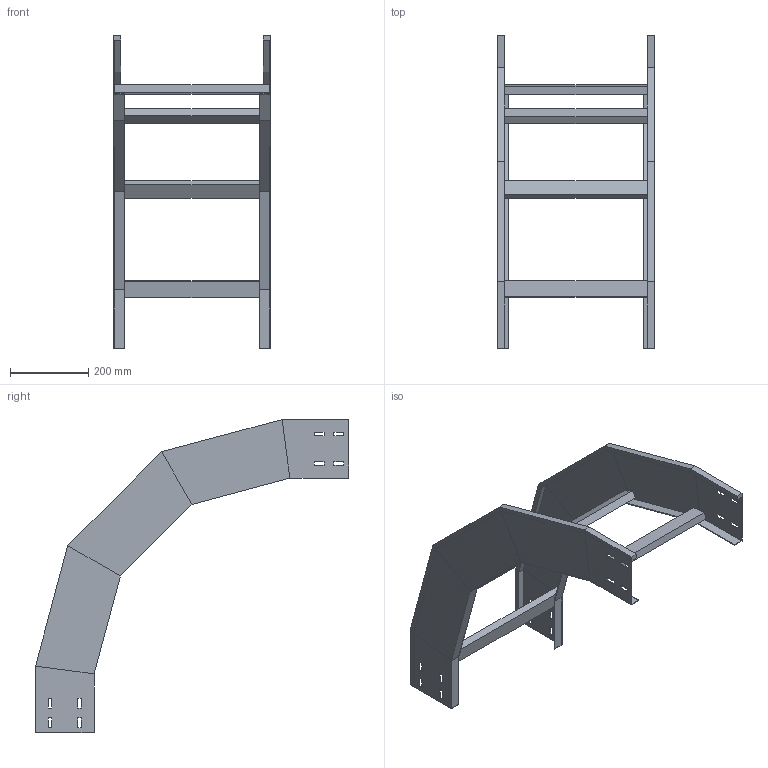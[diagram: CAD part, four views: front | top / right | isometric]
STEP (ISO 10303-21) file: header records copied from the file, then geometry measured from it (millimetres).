
FILE_DESCRIPTION (( 'STEP AP214' ), '1' );
FILE_NAME ('33J5F400.step', '2025-02-21T16:23:06', ( '' ), ( '' ), 'SwSTEP 2.0', 'SolidWorks 2023', '' );
FILE_SCHEMA (( 'AUTOMOTIVE_DESIGN' ));
Length unit declared in the file: millimetre
Products named in the file (3): 33J5F400; TRAVERSINO_400; LONGH.DISCESA_90°_H150_R500
Assembly tree (6 placements, depth 2):
  33J5F400
    LONGH.DISCESA_90°_H150_R500  x2
    TRAVERSINO_400  x4
Bounding box: 400 x 800.35 x 800.35 mm (x, y, z)
Volume: 2603781.6 mm3; surface area: 1114510.1 mm2
Topology: 6 solids, 6 shells, 172 faces, 416 edges, 256 vertices
Faces by surface type: plane 172
Entity records: 2416 total; most frequent: CARTESIAN_POINT 405, ORIENTED_EDGE 392, DIRECTION 374, EDGE_CURVE 196, LINE 196, VECTOR 196, VERTEX_POINT 120, EDGE_LOOP 96
